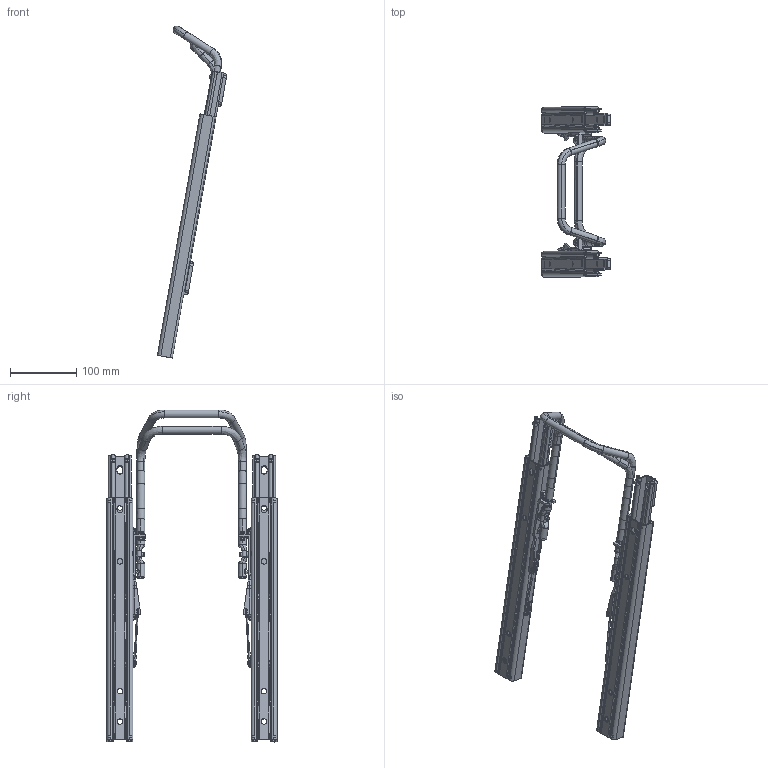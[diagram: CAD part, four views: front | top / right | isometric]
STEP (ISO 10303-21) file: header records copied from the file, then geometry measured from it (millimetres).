
FILE_DESCRIPTION(('CATIA V5 STEP Exchange'),'2;1');
FILE_NAME('C:\Users\Administrator\Desktop\SHT0015332_A.stp','2025-03-31T05:24:10+00:00',('none'),('none'),'CATIA Version 5 Release 20 GA (IN-10)','CATIA V5 STEP AP214','none');
FILE_SCHEMA(('AUTOMOTIVE_DESIGN { 1 0 10303 214 1 1 1 1 }'));
Products named in the file (1): SHT0015332
Bounding box: 104.86 x 257.4 x 502.35 mm (x, y, z)
Volume: 362086 mm3; surface area: 375498 mm2
Topology: 48 solids, 49 shells, 2810 faces, 8016 edges, 5242 vertices
Faces by surface type: plane 1244, cylinder 1024, bspline 470, torus 44, sphere 12, extrusion 12, cone 4
Entity records: 132385 total; most frequent: CARTESIAN_POINT 67650, ORIENTED_EDGE 15956, DIRECTION 9151, EDGE_CURVE 7978, VERTEX_POINT 5238, VECTOR 3790, LINE 3778, AXIS2_PLACEMENT_3D 3116
